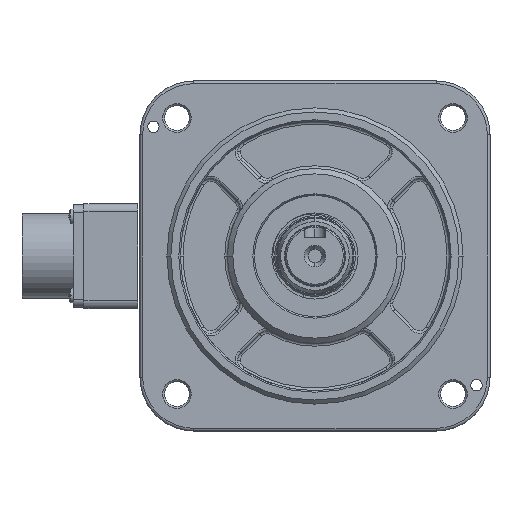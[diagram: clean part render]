
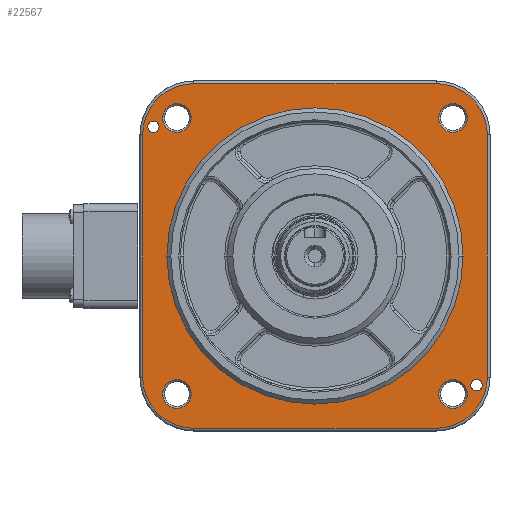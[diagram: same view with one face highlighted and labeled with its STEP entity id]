
A CAD part, left-side view. The second image highlights one B-rep face of the part: STEP entity #22567.
In plain terms, the highlighted planar face has unit normal (-1, 0, 0).
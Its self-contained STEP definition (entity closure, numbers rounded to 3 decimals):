
#17418=CARTESIAN_POINT('',(-124.182,154.96,
-11.475));
#17419=DIRECTION('',(-1.,0.,0.));
#17420=DIRECTION('',(0.,1.,0.));
#17421=AXIS2_PLACEMENT_3D('',#17418,#17419,#17420);
#17423=CARTESIAN_POINT('',(-124.182,154.96,
78.525));
#17424=DIRECTION('',(-1.,0.,0.));
#17425=DIRECTION('',(0.,0.,1.));
#17426=AXIS2_PLACEMENT_3D('',#17423,#17424,#17425);
#17428=CARTESIAN_POINT('',(-124.182,64.96,
78.525));
#17429=DIRECTION('',(-1.,0.,0.));
#17430=DIRECTION('',(0.,-1.,0.));
#17431=AXIS2_PLACEMENT_3D('',#17428,#17429,#17430);
#17433=CARTESIAN_POINT('',(-124.182,64.96,
-11.475));
#17434=DIRECTION('',(-1.,0.,0.));
#17435=DIRECTION('',(0.,0.,-1.));
#17436=AXIS2_PLACEMENT_3D('',#17433,#17434,#17435);
#17438=CARTESIAN_POINT('',(-124.182,169.96,
81.525));
#17439=DIRECTION('',(1.,0.,0.));
#17440=DIRECTION('',(0.,-1.,0.));
#17441=AXIS2_PLACEMENT_3D('',#17438,#17439,#17440);
#17443=CARTESIAN_POINT('',(-124.182,169.96,
81.525));
#17444=DIRECTION('',(1.,0.,0.));
#17445=DIRECTION('',(0.,1.,0.));
#17446=AXIS2_PLACEMENT_3D('',#17443,#17444,#17445);
#17448=CARTESIAN_POINT('',(-124.182,49.96,
-14.475));
#17449=DIRECTION('',(1.,0.,0.));
#17450=DIRECTION('',(0.,-1.,0.));
#17451=AXIS2_PLACEMENT_3D('',#17448,#17449,#17450);
#17453=CARTESIAN_POINT('',(-124.182,49.96,
-14.475));
#17454=DIRECTION('',(1.,0.,0.));
#17455=DIRECTION('',(0.,1.,0.));
#17456=AXIS2_PLACEMENT_3D('',#17453,#17454,#17455);
#17458=CARTESIAN_POINT('',(-124.182,109.96,
33.525));
#17459=DIRECTION('',(1.,0.,0.));
#17460=DIRECTION('',(0.,1.,0.));
#17461=AXIS2_PLACEMENT_3D('',#17458,#17459,#17460);
#17463=CARTESIAN_POINT('',(-124.182,109.96,
33.525));
#17464=DIRECTION('',(1.,0.,0.));
#17465=DIRECTION('',(0.,-1.,0.));
#17466=AXIS2_PLACEMENT_3D('',#17463,#17464,#17465);
#17468=CARTESIAN_POINT('',(-124.182,58.694,
-17.74));
#17469=DIRECTION('',(1.,0.,0.));
#17470=DIRECTION('',(0.,1.,0.));
#17471=AXIS2_PLACEMENT_3D('',#17468,#17469,#17470);
#17473=CARTESIAN_POINT('',(-124.182,58.694,
-17.74));
#17474=DIRECTION('',(1.,0.,0.));
#17475=DIRECTION('',(0.,-1.,0.));
#17476=AXIS2_PLACEMENT_3D('',#17473,#17474,#17475);
#17478=CARTESIAN_POINT('',(-124.182,161.225,
-17.74));
#17479=DIRECTION('',(1.,0.,0.));
#17480=DIRECTION('',(0.,1.,0.));
#17481=AXIS2_PLACEMENT_3D('',#17478,#17479,#17480);
#17483=CARTESIAN_POINT('',(-124.182,161.225,
-17.74));
#17484=DIRECTION('',(1.,0.,0.));
#17485=DIRECTION('',(0.,-1.,0.));
#17486=AXIS2_PLACEMENT_3D('',#17483,#17484,#17485);
#17488=CARTESIAN_POINT('',(-124.182,161.225,
84.79));
#17489=DIRECTION('',(1.,0.,0.));
#17490=DIRECTION('',(0.,1.,0.));
#17491=AXIS2_PLACEMENT_3D('',#17488,#17489,#17490);
#17493=CARTESIAN_POINT('',(-124.182,161.225,
84.79));
#17494=DIRECTION('',(1.,0.,0.));
#17495=DIRECTION('',(0.,-1.,0.));
#17496=AXIS2_PLACEMENT_3D('',#17493,#17494,#17495);
#17498=CARTESIAN_POINT('',(-124.182,58.694,
84.79));
#17499=DIRECTION('',(1.,0.,0.));
#17500=DIRECTION('',(0.,1.,0.));
#17501=AXIS2_PLACEMENT_3D('',#17498,#17499,#17500);
#17503=CARTESIAN_POINT('',(-124.182,58.694,
84.79));
#17504=DIRECTION('',(1.,0.,0.));
#17505=DIRECTION('',(0.,-1.,0.));
#17506=AXIS2_PLACEMENT_3D('',#17503,#17504,#17505);
#17508=DIRECTION('',(0.,1.,0.));
#17509=VECTOR('',#17508,90.);
#17510=CARTESIAN_POINT('',(-124.182,64.96,
-30.475));
#17511=LINE('',#17510,#17509);
#17531=DIRECTION('',(0.,0.,1.));
#17532=VECTOR('',#17531,90.);
#17533=CARTESIAN_POINT('',(-124.182,173.96,
-11.475));
#17534=LINE('',#17533,#17532);
#19701=DIRECTION('',(0.,-1.,0.));
#19702=VECTOR('',#19701,90.);
#19703=CARTESIAN_POINT('',(-124.182,154.96,
97.525));
#19704=LINE('',#19703,#19702);
#19724=DIRECTION('',(0.,0.,-1.));
#19725=VECTOR('',#19724,90.);
#19726=CARTESIAN_POINT('',(-124.182,45.96,
78.525));
#19727=LINE('',#19726,#19725);
#19935=CARTESIAN_POINT('',(-124.182,63.994,
-17.74));
#19936=CARTESIAN_POINT('',(-124.182,53.394,
-17.74));
#19937=VERTEX_POINT('',#19935);
#19938=VERTEX_POINT('',#19936);
#19939=CARTESIAN_POINT('',(-124.182,53.394,
84.79));
#19940=CARTESIAN_POINT('',(-124.182,63.994,
84.79));
#19941=VERTEX_POINT('',#19939);
#19942=VERTEX_POINT('',#19940);
#20033=CARTESIAN_POINT('',(-124.182,155.925,
84.79));
#20034=CARTESIAN_POINT('',(-124.182,166.525,
84.79));
#20035=VERTEX_POINT('',#20033);
#20036=VERTEX_POINT('',#20034);
#20116=CARTESIAN_POINT('',(-124.182,154.96,
-30.475));
#20118=VERTEX_POINT('',#20116);
#20143=CARTESIAN_POINT('',(-124.182,54.96,
33.525));
#20144=CARTESIAN_POINT('',(-124.182,164.96,
33.525));
#20145=VERTEX_POINT('',#20143);
#20146=VERTEX_POINT('',#20144);
#20148=CARTESIAN_POINT('',(-124.182,52.06,
-14.475));
#20150=VERTEX_POINT('',#20148);
#20192=CARTESIAN_POINT('',(-124.182,172.06,
81.525));
#20194=VERTEX_POINT('',#20192);
#20296=CARTESIAN_POINT('',(-124.182,167.86,
81.525));
#20298=VERTEX_POINT('',#20296);
#20404=CARTESIAN_POINT('',(-124.182,173.96,
-11.475));
#20406=VERTEX_POINT('',#20404);
#20478=CARTESIAN_POINT('',(-124.182,47.86,
-14.475));
#20479=VERTEX_POINT('',#20478);
#20520=CARTESIAN_POINT('',(-124.182,155.925,
-17.74));
#20521=VERTEX_POINT('',#20520);
#20564=CARTESIAN_POINT('',(-124.182,173.96,
78.525));
#20565=VERTEX_POINT('',#20564);
#20584=CARTESIAN_POINT('',(-124.182,64.96,
-30.475));
#20585=VERTEX_POINT('',#20584);
#20598=CARTESIAN_POINT('',(-124.182,166.525,
-17.74));
#20599=VERTEX_POINT('',#20598);
#20604=CARTESIAN_POINT('',(-124.182,45.96,
78.525));
#20605=VERTEX_POINT('',#20604);
#20694=CARTESIAN_POINT('',(-124.182,45.96,
-11.475));
#20695=VERTEX_POINT('',#20694);
#20718=CARTESIAN_POINT('',(-124.182,154.96,
97.525));
#20719=VERTEX_POINT('',#20718);
#20751=CARTESIAN_POINT('',(-124.182,64.96,
97.525));
#20752=VERTEX_POINT('',#20751);
#22503=CARTESIAN_POINT('',(-124.182,109.96,
33.525));
#22504=DIRECTION('',(-1.,0.,0.));
#22505=DIRECTION('',(0.,-1.,0.));
#22506=AXIS2_PLACEMENT_3D('',#22503,#22504,#22505);
#22507=PLANE('',#22506);
#22509=ORIENTED_EDGE('',*,*,#22508,.T.);
#22511=ORIENTED_EDGE('',*,*,#22510,.F.);
#22513=ORIENTED_EDGE('',*,*,#22512,.T.);
#22515=ORIENTED_EDGE('',*,*,#22514,.F.);
#22517=ORIENTED_EDGE('',*,*,#22516,.T.);
#22519=ORIENTED_EDGE('',*,*,#22518,.F.);
#22521=ORIENTED_EDGE('',*,*,#22520,.T.);
#22523=ORIENTED_EDGE('',*,*,#22522,.F.);
#22524=EDGE_LOOP('',(#22509,#22511,#22513,#22515,#22517,#22519,#22521,#22523));
#22525=FACE_OUTER_BOUND('',#22524,.F.);
#22527=ORIENTED_EDGE('',*,*,#22526,.F.);
#22529=ORIENTED_EDGE('',*,*,#22528,.F.);
#22530=EDGE_LOOP('',(#22527,#22529));
#22531=FACE_BOUND('',#22530,.F.);
#22533=ORIENTED_EDGE('',*,*,#22532,.F.);
#22535=ORIENTED_EDGE('',*,*,#22534,.F.);
#22536=EDGE_LOOP('',(#22533,#22535));
#22537=FACE_BOUND('',#22536,.F.);
#22538=ORIENTED_EDGE('',*,*,#22493,.F.);
#22540=ORIENTED_EDGE('',*,*,#22539,.F.);
#22541=EDGE_LOOP('',(#22538,#22540));
#22542=FACE_BOUND('',#22541,.F.);
#22544=ORIENTED_EDGE('',*,*,#22543,.F.);
#22546=ORIENTED_EDGE('',*,*,#22545,.F.);
#22547=EDGE_LOOP('',(#22544,#22546));
#22548=FACE_BOUND('',#22547,.F.);
#22550=ORIENTED_EDGE('',*,*,#22549,.F.);
#22552=ORIENTED_EDGE('',*,*,#22551,.F.);
#22553=EDGE_LOOP('',(#22550,#22552));
#22554=FACE_BOUND('',#22553,.F.);
#22556=ORIENTED_EDGE('',*,*,#22555,.F.);
#22558=ORIENTED_EDGE('',*,*,#22557,.F.);
#22559=EDGE_LOOP('',(#22556,#22558));
#22560=FACE_BOUND('',#22559,.F.);
#22562=ORIENTED_EDGE('',*,*,#22561,.F.);
#22564=ORIENTED_EDGE('',*,*,#22563,.F.);
#22565=EDGE_LOOP('',(#22562,#22564));
#22566=FACE_BOUND('',#22565,.F.);
#22567=ADVANCED_FACE('',(#22525,#22531,#22537,#22542,#22548,#22554,#22560,
#22566),#22507,.T.);
#17422=CIRCLE('',#17421,19.);
#17427=CIRCLE('',#17426,19.);
#17432=CIRCLE('',#17431,19.);
#17437=CIRCLE('',#17436,19.);
#17442=CIRCLE('',#17441,2.1);
#17447=CIRCLE('',#17446,2.1);
#17452=CIRCLE('',#17451,2.1);
#17457=CIRCLE('',#17456,2.1);
#17462=CIRCLE('',#17461,55.);
#17467=CIRCLE('',#17466,55.);
#17472=CIRCLE('',#17471,5.3);
#17477=CIRCLE('',#17476,5.3);
#17482=CIRCLE('',#17481,5.3);
#17487=CIRCLE('',#17486,5.3);
#17492=CIRCLE('',#17491,5.3);
#17497=CIRCLE('',#17496,5.3);
#17502=CIRCLE('',#17501,5.3);
#17507=CIRCLE('',#17506,5.3);
#22493=EDGE_CURVE('',#20146,#20145,#17462,.T.);
#22508=EDGE_CURVE('',#20585,#20118,#17511,.T.);
#22510=EDGE_CURVE('',#20406,#20118,#17422,.T.);
#22512=EDGE_CURVE('',#20406,#20565,#17534,.T.);
#22514=EDGE_CURVE('',#20719,#20565,#17427,.T.);
#22516=EDGE_CURVE('',#20719,#20752,#19704,.T.);
#22518=EDGE_CURVE('',#20605,#20752,#17432,.T.);
#22520=EDGE_CURVE('',#20605,#20695,#19727,.T.);
#22522=EDGE_CURVE('',#20585,#20695,#17437,.T.);
#22526=EDGE_CURVE('',#20298,#20194,#17442,.T.);
#22528=EDGE_CURVE('',#20194,#20298,#17447,.T.);
#22532=EDGE_CURVE('',#20479,#20150,#17452,.T.);
#22534=EDGE_CURVE('',#20150,#20479,#17457,.T.);
#22539=EDGE_CURVE('',#20145,#20146,#17467,.T.);
#22543=EDGE_CURVE('',#19937,#19938,#17472,.T.);
#22545=EDGE_CURVE('',#19938,#19937,#17477,.T.);
#22549=EDGE_CURVE('',#20599,#20521,#17482,.T.);
#22551=EDGE_CURVE('',#20521,#20599,#17487,.T.);
#22555=EDGE_CURVE('',#20036,#20035,#17492,.T.);
#22557=EDGE_CURVE('',#20035,#20036,#17497,.T.);
#22561=EDGE_CURVE('',#19942,#19941,#17502,.T.);
#22563=EDGE_CURVE('',#19941,#19942,#17507,.T.);
